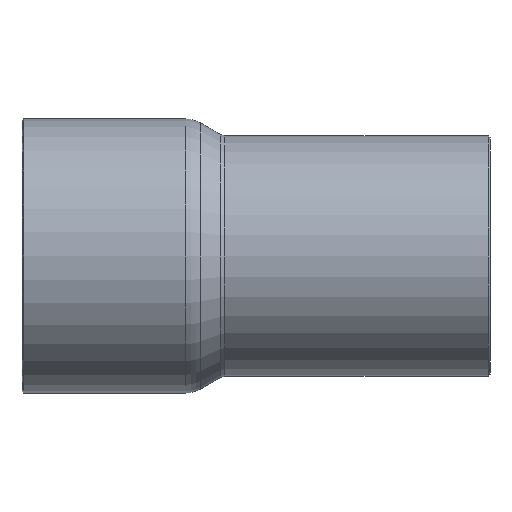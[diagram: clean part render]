
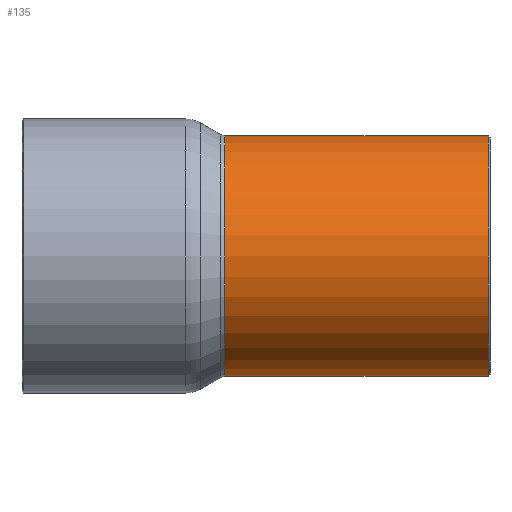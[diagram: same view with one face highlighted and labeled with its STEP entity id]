
A CAD part, front view. The second image highlights one B-rep face of the part: STEP entity #135.
In plain terms, the highlighted cylindrical face has radius 14.285 mm (diameter 28.57 mm), a full revolution.
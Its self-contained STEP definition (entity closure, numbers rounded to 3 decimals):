
#73=CARTESIAN_POINT('',(29.45,14.285,0.));
#74=VERTEX_POINT('',#73);
#75=CARTESIAN_POINT('',(29.45,0.0,0.0));
#76=DIRECTION('',(1.0,0.0,0.0));
#77=DIRECTION('',(0.0,-1.0,0.0));
#78=AXIS2_PLACEMENT_3D('',#75,#76,#77);
#79=CIRCLE('',#78,14.285);
#80=EDGE_CURVE('',#74,#74,#79,.T.);
#116=CARTESIAN_POINT('',(13.901,0.0,0.0));
#117=DIRECTION('',(1.0,0.0,0.0));
#118=DIRECTION('',(0.0,1.0,0.0));
#119=AXIS2_PLACEMENT_3D('',#116,#117,#118);
#120=CYLINDRICAL_SURFACE('',#119,14.285);
#121=CARTESIAN_POINT('',(-1.847,14.285,0.0));
#122=VERTEX_POINT('',#121);
#123=CARTESIAN_POINT('',(-1.847,0.0,0.0));
#124=DIRECTION('',(1.0,0.0,0.0));
#125=DIRECTION('',(0.0,1.0,0.0));
#126=AXIS2_PLACEMENT_3D('',#123,#124,#125);
#127=CIRCLE('',#126,14.285);
#128=EDGE_CURVE('',#122,#122,#127,.T.);
#129=ORIENTED_EDGE('',*,*,#128,.T.);
#130=EDGE_LOOP('',(#129));
#131=FACE_OUTER_BOUND('',#130,.T.);
#132=ORIENTED_EDGE('',*,*,#80,.F.);
#133=EDGE_LOOP('',(#132));
#134=FACE_BOUND('',#133,.T.);
#135=ADVANCED_FACE('',(#131,#134),#120,.T.);
